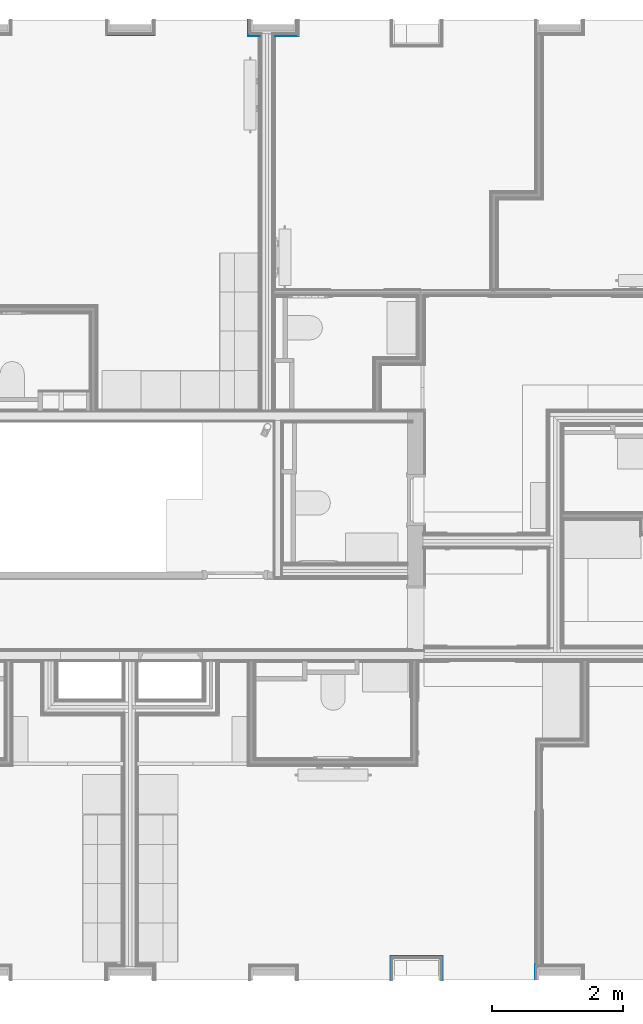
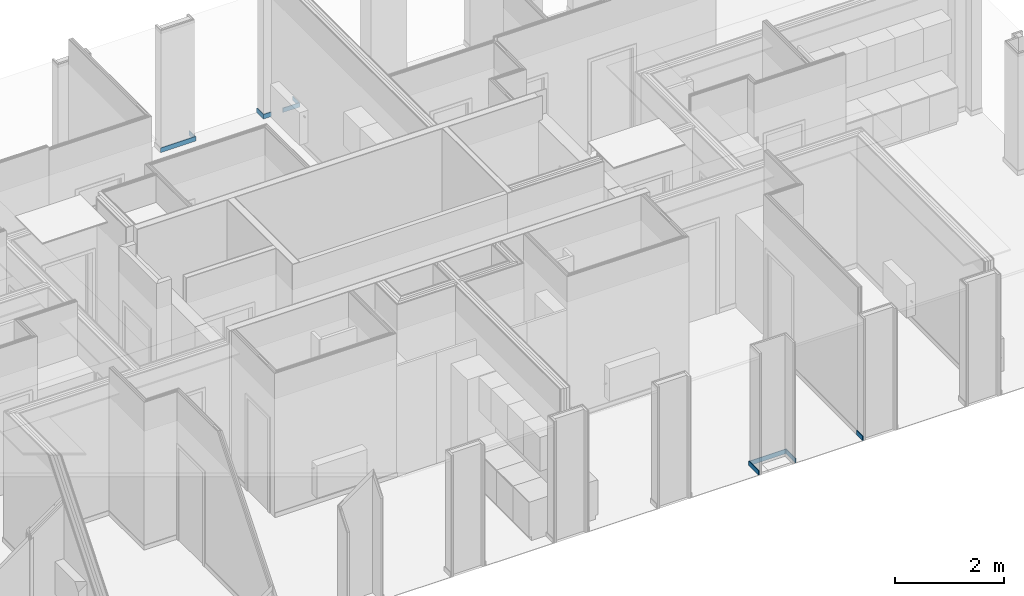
# One storey, part 36 of 65: 10 building element parts, 9 elements without a shape of their own.
"""IFC2X3 building model written with IfcOpenShell, lengths in metres."""

from ifc_helpers import new_model, entity, si_unit, converted_unit, derived_unit, money_unit, direction, frame, origin_with_axes, place, context, subcontext, project, spatial, polyline, outline, extrude, material, type_object, element, aggregate, save


model = new_model("IFC2X3")

# Units and contexts
model_context = context("Model", 3, precision=1e-05, world=origin_with_axes(), true_north=direction((0.0, 1.0)))
body_context = subcontext(model_context, "Body", "Model", "MODEL_VIEW", scale=1.0)
ifc_project = project(units=[si_unit("LENGTHUNIT", "METRE"), si_unit("AREAUNIT", "SQUARE_METRE"), si_unit("VOLUMEUNIT", "CUBIC_METRE"), si_unit("ABSORBEDDOSEUNIT", "GRAY"), si_unit("AMOUNTOFSUBSTANCEUNIT", "MOLE"), si_unit("DOSEEQUIVALENTUNIT", "SIEVERT"), si_unit("ELECTRICCAPACITANCEUNIT", "FARAD"), si_unit("ELECTRICCHARGEUNIT", "COULOMB"), si_unit("ELECTRICCONDUCTANCEUNIT", "SIEMENS"), si_unit("ELECTRICCURRENTUNIT", "AMPERE"), si_unit("ELECTRICRESISTANCEUNIT", "OHM"), si_unit("ELECTRICVOLTAGEUNIT", "VOLT"), si_unit("ENERGYUNIT", "JOULE"), si_unit("FORCEUNIT", "NEWTON"), si_unit("FREQUENCYUNIT", "HERTZ"), si_unit("ILLUMINANCEUNIT", "LUX"), si_unit("INDUCTANCEUNIT", "HENRY"), si_unit("LUMINOUSFLUXUNIT", "LUMEN"), si_unit("LUMINOUSINTENSITYUNIT", "CANDELA"), si_unit("MAGNETICFLUXDENSITYUNIT", "TESLA"), si_unit("MAGNETICFLUXUNIT", "WEBER"), si_unit("MASSUNIT", "GRAM"), converted_unit("PLANEANGLEUNIT", "degree", entity("IfcReal", 0.0174532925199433), si_unit("PLANEANGLEUNIT", "RADIAN"), dimensions=[0, 0, 0, 0, 0, 0, 0]), si_unit("POWERUNIT", "WATT"), si_unit("PRESSUREUNIT", "PASCAL"), si_unit("RADIOACTIVITYUNIT", "BECQUEREL"), si_unit("SOLIDANGLEUNIT", "STERADIAN"), si_unit("THERMODYNAMICTEMPERATUREUNIT", "KELVIN"), si_unit("TIMEUNIT", "SECOND"), derived_unit("ACCELERATIONUNIT", [(si_unit("LENGTHUNIT", "METRE"), 1), (si_unit("TIMEUNIT", "SECOND"), -2)]), derived_unit("ANGULARVELOCITYUNIT", [(converted_unit("PLANEANGLEUNIT", "degree", entity("IfcReal", 0.0174532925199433), si_unit("PLANEANGLEUNIT", "RADIAN"), dimensions=[0, 0, 0, 0, 0, 0, 0]), 1), (si_unit("TIMEUNIT", "SECOND"), -1)]), derived_unit("CURVATUREUNIT", [(converted_unit("PLANEANGLEUNIT", "degree", entity("IfcReal", 0.0174532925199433), si_unit("PLANEANGLEUNIT", "RADIAN"), dimensions=[0, 0, 0, 0, 0, 0, 0]), 1), (si_unit("LENGTHUNIT", "METRE"), -1)]), derived_unit("DYNAMICVISCOSITYUNIT", [(si_unit("PRESSUREUNIT", "PASCAL"), 1), (si_unit("TIMEUNIT", "SECOND"), 1)]), derived_unit("HEATFLUXDENSITYUNIT", [(si_unit("POWERUNIT", "WATT"), 1), (si_unit("LENGTHUNIT", "METRE"), -2)]), derived_unit("HEATINGVALUEUNIT", [(si_unit("ENERGYUNIT", "JOULE"), 1), (si_unit("MASSUNIT", "GRAM"), -1)]), derived_unit("INTEGERCOUNTRATEUNIT", [(si_unit("TIMEUNIT", "SECOND"), -1)]), derived_unit("IONCONCENTRATIONUNIT", [(si_unit("MASSUNIT", "GRAM"), 1), (si_unit("VOLUMEUNIT", "CUBIC_METRE"), -1)]), derived_unit("ISOTHERMALMOISTURECAPACITYUNIT", [(si_unit("VOLUMEUNIT", "CUBIC_METRE"), 1), (si_unit("MASSUNIT", "GRAM"), -1)]), derived_unit("KINEMATICVISCOSITYUNIT", [(si_unit("AREAUNIT", "SQUARE_METRE"), 1), (si_unit("TIMEUNIT", "SECOND"), -1)]), derived_unit("LINEARFORCEUNIT", [(si_unit("FORCEUNIT", "NEWTON"), 1), (si_unit("LENGTHUNIT", "METRE"), -1)]), derived_unit("LINEARMOMENTUNIT", [(si_unit("FORCEUNIT", "NEWTON"), 1), (si_unit("LENGTHUNIT", "METRE"), -1)]), derived_unit("LINEARSTIFFNESSUNIT", [(si_unit("FORCEUNIT", "NEWTON"), 1), (si_unit("LENGTHUNIT", "METRE"), -1)]), derived_unit("LINEARVELOCITYUNIT", [(si_unit("LENGTHUNIT", "METRE"), 1), (si_unit("TIMEUNIT", "SECOND"), -1)]), derived_unit("LUMINOUSINTENSITYDISTRIBUTIONUNIT", [(si_unit("LUMINOUSINTENSITYUNIT", "CANDELA"), 1), (si_unit("LUMINOUSFLUXUNIT", "LUMEN"), -1)]), derived_unit("MASSDENSITYUNIT", [(si_unit("MASSUNIT", "GRAM"), 1), (si_unit("VOLUMEUNIT", "CUBIC_METRE"), -1)]), derived_unit("MASSFLOWRATEUNIT", [(si_unit("MASSUNIT", "GRAM"), 1), (si_unit("TIMEUNIT", "SECOND"), -1)]), derived_unit("MASSPERLENGTHUNIT", [(si_unit("MASSUNIT", "GRAM"), 1), (si_unit("LENGTHUNIT", "METRE"), -1)]), derived_unit("MODULUSOFELASTICITYUNIT", [(si_unit("FORCEUNIT", "NEWTON"), 1), (si_unit("AREAUNIT", "SQUARE_METRE"), -1)]), derived_unit("MODULUSOFLINEARSUBGRADEREACTIONUNIT", [(si_unit("FORCEUNIT", "NEWTON"), 1), (si_unit("LENGTHUNIT", "METRE"), -2)]), derived_unit("MODULUSOFROTATIONALSUBGRADEREACTIONUNIT", [(si_unit("FORCEUNIT", "NEWTON"), 1), (si_unit("LENGTHUNIT", "METRE"), 1)]), derived_unit("MODULUSOFSUBGRADEREACTIONUNIT", [(si_unit("FORCEUNIT", "NEWTON"), 1), (si_unit("VOLUMEUNIT", "CUBIC_METRE"), -1)]), derived_unit("MOISTUREDIFFUSIVITYUNIT", [(si_unit("VOLUMEUNIT", "CUBIC_METRE"), 1), (si_unit("TIMEUNIT", "SECOND"), -1)]), derived_unit("MOLECULARWEIGHTUNIT", [(si_unit("MASSUNIT", "GRAM"), 1), (si_unit("AMOUNTOFSUBSTANCEUNIT", "MOLE"), -1)]), derived_unit("PLANARFORCEUNIT", [(si_unit("FORCEUNIT", "NEWTON"), 1), (si_unit("LENGTHUNIT", "METRE"), -2)]), derived_unit("ROTATIONALFREQUENCYUNIT", [(si_unit("TIMEUNIT", "SECOND"), -1)]), derived_unit("ROTATIONALMASSUNIT", [(si_unit("MASSUNIT", "GRAM"), 1), (si_unit("LENGTHUNIT", "METRE"), 2)]), derived_unit("ROTATIONALSTIFFNESSUNIT", [(si_unit("FORCEUNIT", "NEWTON"), 1), (si_unit("LENGTHUNIT", "METRE"), 1), (converted_unit("PLANEANGLEUNIT", "degree", entity("IfcReal", 0.0174532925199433), si_unit("PLANEANGLEUNIT", "RADIAN"), dimensions=[0, 0, 0, 0, 0, 0, 0]), -1)]), derived_unit("SECTIONAREAINTEGRALUNIT", [(si_unit("LENGTHUNIT", "METRE"), 5)]), derived_unit("SECTIONMODULUSUNIT", [(si_unit("LENGTHUNIT", "METRE"), 3)]), derived_unit("SHEARMODULUSUNIT", [(si_unit("FORCEUNIT", "NEWTON"), 1), (si_unit("AREAUNIT", "SQUARE_METRE"), -1)]), derived_unit("SOUNDPOWERUNIT", [(si_unit("ENERGYUNIT", "JOULE"), 1), (si_unit("TIMEUNIT", "SECOND"), -1)]), derived_unit("SPECIFICHEATCAPACITYUNIT", [(si_unit("FORCEUNIT", "NEWTON"), 1), (si_unit("MASSUNIT", "GRAM"), -1), (si_unit("THERMODYNAMICTEMPERATUREUNIT", "KELVIN"), -1)]), derived_unit("TEMPERATUREGRADIENTUNIT", [(si_unit("THERMODYNAMICTEMPERATUREUNIT", "KELVIN"), 1), (si_unit("LENGTHUNIT", "METRE"), -1)]), derived_unit("THERMALADMITTANCEUNIT", [(si_unit("POWERUNIT", "WATT"), 1), (si_unit("AREAUNIT", "SQUARE_METRE"), -1), (si_unit("THERMODYNAMICTEMPERATUREUNIT", "KELVIN"), -1)]), derived_unit("THERMALCONDUCTANCEUNIT", [(si_unit("POWERUNIT", "WATT"), 1), (si_unit("LENGTHUNIT", "METRE"), -1), (si_unit("THERMODYNAMICTEMPERATUREUNIT", "KELVIN"), -1)]), derived_unit("THERMALEXPANSIONCOEFFICIENTUNIT", [(si_unit("THERMODYNAMICTEMPERATUREUNIT", "KELVIN"), -1)]), derived_unit("THERMALRESISTANCEUNIT", [(si_unit("AREAUNIT", "SQUARE_METRE"), 1), (si_unit("POWERUNIT", "WATT"), -1)]), derived_unit("THERMALTRANSMITTANCEUNIT", [(si_unit("POWERUNIT", "WATT"), 1), (si_unit("AREAUNIT", "SQUARE_METRE"), -1), (si_unit("THERMODYNAMICTEMPERATUREUNIT", "KELVIN"), -1)]), derived_unit("TORQUEUNIT", [(si_unit("FORCEUNIT", "NEWTON"), 1), (si_unit("LENGTHUNIT", "METRE"), 1)]), derived_unit("VAPORPERMEABILITYUNIT", [(si_unit("MASSUNIT", "GRAM"), 1), (si_unit("TIMEUNIT", "SECOND"), -1)]), derived_unit("VOLUMETRICFLOWRATEUNIT", [(si_unit("VOLUMEUNIT", "CUBIC_METRE"), 1), (si_unit("TIMEUNIT", "SECOND"), -1)]), derived_unit("WARPINGCONSTANTUNIT", [(si_unit("LENGTHUNIT", "METRE"), 6)]), derived_unit("WARPINGMOMENTUNIT", [(si_unit("FORCEUNIT", "NEWTON"), 1), (si_unit("LENGTHUNIT", "METRE"), 2)]), money_unit("GBP")], contexts=[model_context])

# Site, building, storey
site_placement = place(None, origin_with_axes())
site = spatial("IfcSite", under=ifc_project, at=site_placement, Name="Site", CompositionType="ELEMENT")
building_placement = place(site_placement, origin_with_axes())
building = spatial("IfcBuilding", under=site, at=building_placement, Name="Building01", CompositionType="ELEMENT")
storey_placement = place(building_placement, frame((0.0, 0.0, 8.64), z_axis=(0.0, 0.0, 1.0), x_axis=(1.0, 0.0, 0.0)))
storey = spatial("IfcBuildingStorey", under=building, at=storey_placement, Name="2F", CompositionType="ELEMENT", Elevation=8.64)

# Wall, building element part
wall_type_1 = type_object("IfcWallType", Name="SHE_A-Walls_Type06d_ExternalWallInsulation_48mm", PredefinedType="NOTDEFINED")
wall_1_placement = place(storey_placement, frame((17.55, 0.1, 0.0), z_axis=(0.0, 0.0, 1.0), x_axis=(0.0, 1.0, 0.0)))
wall_1 = element("IfcWall", 1, at=wall_1_placement, inside=storey, type_object=wall_type_1, Name="6D", ObjectType="SHE_A-Walls_Type06d_ExternalWallInsulation_48mm")
ifc_material = material(Name="A_BSUK_Walls_Timber")
building_element_part_1_placement = place(wall_1_placement, origin_with_axes())
building_element_part_1 = element("IfcBuildingElementPart", 2, at=building_element_part_1_placement, material=ifc_material, Name="3", context=body_context, shape_type="SweptSolid", body=[
    extrude(outline(polyline([(0.363, 0.063), (0.0, 0.063), (0.0, 0.048), (0.348, 0.048), (0.363, 0.063)])), frame((0.0, 0.0, 0.015), z_axis=(0.0, 0.0, 1.0), x_axis=(1.0, 0.0, 0.0)), (0.0, 0.0, 1.0), 0.1),
])
aggregate(wall_1, [building_element_part_1])

wall_2_placement = place(storey_placement, frame((17.55, 0.4, 0.0), z_axis=(0.0, 0.0, 1.0), x_axis=(1.0, 0.0, 0.0)))
wall_2 = element("IfcWall", 3, at=wall_2_placement, inside=storey, type_object=wall_type_1, Name="6D", ObjectType="SHE_A-Walls_Type06d_ExternalWallInsulation_48mm")
building_element_part_2_placement = place(wall_2_placement, origin_with_axes())
building_element_part_2 = element("IfcBuildingElementPart", 4, at=building_element_part_2_placement, material=ifc_material, Name="3", context=body_context, shape_type="SweptSolid", body=[
    extrude(outline(polyline([(0.733, 0.063), (-0.063, 0.063), (-0.048, 0.048), (0.718, 0.048), (0.733, 0.063)])), frame((0.0, 0.0, 0.015), z_axis=(0.0, 0.0, 1.0), x_axis=(1.0, 0.0, 0.0)), (0.0, 0.0, 1.0), 0.1),
])
aggregate(wall_2, [building_element_part_2])

wall_3_placement = place(storey_placement, frame((18.22, 0.4, 0.0), z_axis=(0.0, 0.0, 1.0), x_axis=(0.0, -1.0, 0.0)))
wall_3 = element("IfcWall", 5, at=wall_3_placement, inside=storey, type_object=wall_type_1, Name="6D", ObjectType="SHE_A-Walls_Type06d_ExternalWallInsulation_48mm")
building_element_part_3_placement = place(wall_3_placement, origin_with_axes())
building_element_part_3 = element("IfcBuildingElementPart", 6, at=building_element_part_3_placement, material=ifc_material, Name="3", context=body_context, shape_type="SweptSolid", body=[
    extrude(outline(polyline([(-0.063, 0.063), (-0.048, 0.048), (0.3, 0.048), (0.3, 0.063), (-0.063, 0.063)])), frame((0.0, 0.0, 0.015), z_axis=(0.0, 0.0, 1.0), x_axis=(1.0, 0.0, 0.0)), (0.0, 0.0, 1.0), 0.1),
])
aggregate(wall_3, [building_element_part_3])

wall_4_placement = place(storey_placement, frame((19.763, 0.1, 0.0), z_axis=(0.0, 0.0, 1.0), x_axis=(0.0, 1.0, 0.0)))
wall_4 = element("IfcWall", 7, at=wall_4_placement, inside=storey, type_object=wall_type_1, Name="6D", ObjectType="SHE_A-Walls_Type06d_ExternalWallInsulation_48mm")
building_element_part_4_placement = place(wall_4_placement, origin_with_axes())
building_element_part_4 = element("IfcBuildingElementPart", 8, at=building_element_part_4_placement, material=ifc_material, Name="3", context=body_context, shape_type="SweptSolid", body=[
    extrude(outline(polyline([(0.233, 0.063), (0.0, 0.063), (0.0, 0.048), (0.218, 0.048), (0.233, 0.063)])), frame((0.0, 0.0, 0.015), z_axis=(0.0, 0.0, 1.0), x_axis=(1.0, 0.0, 0.0)), (0.0, 0.0, 1.0), 0.1),
])
aggregate(wall_4, [building_element_part_4])

wall_5_placement = place(storey_placement, frame((13.817, 14.8, 0.0), z_axis=(0.0, 0.0, 1.0), x_axis=(0.0, -1.0, 0.0)))
wall_5 = element("IfcWall", 9, at=wall_5_placement, inside=storey, type_object=wall_type_1, Name="6D", ObjectType="SHE_A-Walls_Type06d_ExternalWallInsulation_48mm")
building_element_part_5_placement = place(wall_5_placement, origin_with_axes())
building_element_part_5 = element("IfcBuildingElementPart", 10, at=building_element_part_5_placement, material=ifc_material, Name="3", context=body_context, shape_type="SweptSolid", body=[
    extrude(outline(polyline([(0.233, 0.063), (0.0, 0.063), (0.0, 0.048), (0.218, 0.048), (0.233, 0.063)])), frame((0.0, 0.0, 0.015), z_axis=(0.0, 0.0, 1.0), x_axis=(1.0, 0.0, 0.0)), (0.0, 0.0, 1.0), 0.1),
])
aggregate(wall_5, [building_element_part_5])

wall_6_placement = place(storey_placement, frame((13.817, 14.63, 0.0), z_axis=(0.0, 0.0, 1.0), x_axis=(-1.0, 0.0, 0.0)))
wall_6 = element("IfcWall", 11, at=wall_6_placement, inside=storey, type_object=wall_type_1, Name="6D", ObjectType="SHE_A-Walls_Type06d_ExternalWallInsulation_48mm")
building_element_part_6_placement = place(wall_6_placement, origin_with_axes())
building_element_part_6 = element("IfcBuildingElementPart", 12, at=building_element_part_6_placement, material=ifc_material, Name="3", context=body_context, shape_type="SweptSolid", body=[
    extrude(outline(polyline([(0.687, 0.063), (-0.063, 0.063), (-0.048, 0.048), (0.672, 0.048), (0.687, 0.063)])), frame((0.0, 0.0, 0.015), z_axis=(0.0, 0.0, 1.0), x_axis=(1.0, 0.0, 0.0)), (0.0, 0.0, 1.0), 0.1),
])
aggregate(wall_6, [building_element_part_6])

wall_type_2 = type_object("IfcWallType", Name="SHE_A-Walls_Type06f_ExternalWallInsulation_48+15mm", PredefinedType="NOTDEFINED")
wall_7_placement = place(storey_placement, frame((15.383, 14.63, 0.0), z_axis=(0.0, 0.0, 1.0), x_axis=(0.0, 1.0, 0.0)))
wall_7 = element("IfcWall", 13, at=wall_7_placement, inside=storey, type_object=wall_type_2, Name="6F", ObjectType="SHE_A-Walls_Type06f_ExternalWallInsulation_48+15mm")
building_element_part_7_placement = place(wall_7_placement, origin_with_axes())
building_element_part_7 = element("IfcBuildingElementPart", 14, at=building_element_part_7_placement, material=ifc_material, Name="4", context=body_context, shape_type="SweptSolid", body=[
    extrude(outline(polyline([(0.17, 0.078), (-0.078, 0.078), (-0.063, 0.063), (0.17, 0.063), (0.17, 0.078)])), frame((0.0, 0.0, 0.015), z_axis=(0.0, 0.0, 1.0), x_axis=(1.0, 0.0, 0.0)), (0.0, 0.0, 1.0), 0.1),
])
aggregate(wall_7, [building_element_part_7])

# Wall, building element parts
wall_8_placement = place(storey_placement, frame((16.043124, 14.63, 0.0), z_axis=(0.0, 0.0, 1.0), x_axis=(-1.0, 0.0, 0.0)))
wall_8 = element("IfcWall", 15, at=wall_8_placement, inside=storey, type_object=wall_type_2, Name="6F", ObjectType="SHE_A-Walls_Type06f_ExternalWallInsulation_48+15mm")
placement = place(wall_8_placement, origin_with_axes())
building_element_part_8 = element("IfcBuildingElementPart", 16, at=placement, material=ifc_material, Name="6", context=body_context, shape_type="SweptSolid", body=[
    extrude(outline(polyline([(0.319992, 0.078), (-0.042, 0.078), (-0.027, 0.063), (0.319992, 0.063), (0.319992, 0.078)])), frame((0.0, 0.0, 0.015), z_axis=(0.0, 0.0, 1.0), x_axis=(1.0, 0.0, 0.0)), (0.0, 0.0, 1.0), 0.1),
])
building_element_part_9 = element("IfcBuildingElementPart", 17, at=placement, material=ifc_material, Name="7", context=body_context, shape_type="SweptSolid", body=[
    extrude(outline(polyline([(0.738124, 0.078), (0.559992, 0.078), (0.559992, 0.063), (0.723124, 0.063), (0.738124, 0.078)])), frame((0.0, 0.0, 0.015), z_axis=(0.0, 0.0, 1.0), x_axis=(1.0, 0.0, 0.0)), (0.0, 0.0, 1.0), 0.1),
])
aggregate(wall_8, [building_element_part_8, building_element_part_9])

# Wall, building element part
wall_9_placement = place(storey_placement, frame((16.007124, 14.63, 0.0), z_axis=(0.0, 0.0, 1.0), x_axis=(0.0, 1.0, 0.0)))
wall_9 = element("IfcWall", 18, at=wall_9_placement, inside=storey, type_object=wall_type_2, Name="6F", ObjectType="SHE_A-Walls_Type06f_ExternalWallInsulation_48+15mm")
building_element_part_10_placement = place(wall_9_placement, origin_with_axes())
building_element_part_10 = element("IfcBuildingElementPart", 19, at=building_element_part_10_placement, material=ifc_material, Name="1", context=body_context, shape_type="SweptSolid", body=[
    extrude(outline(polyline([(0.17, -0.063), (-0.063, -0.063), (-0.078, -0.078), (0.17, -0.078), (0.17, -0.063)])), frame((0.0, 0.0, 0.015), z_axis=(0.0, 0.0, 1.0), x_axis=(1.0, 0.0, 0.0)), (0.0, 0.0, 1.0), 0.1),
])
aggregate(wall_9, [building_element_part_10])

save(model, "model.ifc")
